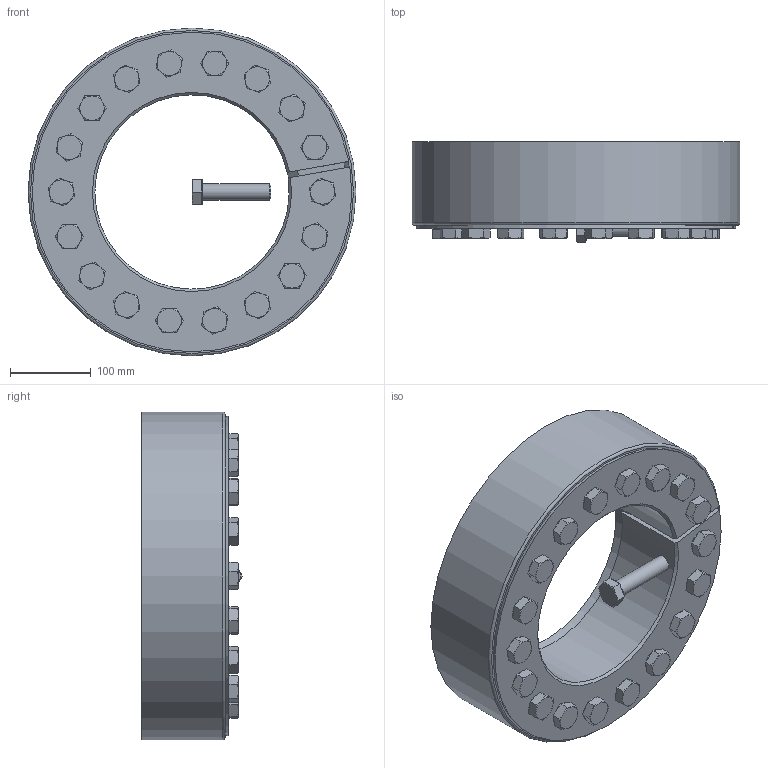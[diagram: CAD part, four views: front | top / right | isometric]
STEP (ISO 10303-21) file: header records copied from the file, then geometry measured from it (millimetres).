
FILE_DESCRIPTION( ( 'Unknown' ), '1' );
FILE_NAME( 'C:/Dokumente und Einstellungen/Sven/Desktop/homepage/cad - homepage/KBS19-1/KBS 19_1 - 240 x 405.stp', 'Unknown', ( 'Unknown' ), ( 'Unknown' ), 'XStep 1.0', 'Unknown', ' ' );
FILE_SCHEMA( ( 'automotive_design' ) );
Length unit declared in the file: millimetre
Products named in the file (3): Assem1; KBS 19_1 - 240 x 405; ISO 4017 - M20 x 85-N
Bounding box: 405 x 124.32 x 405 mm (x, y, z)
Volume: 17229458.9 mm3; surface area: 1152376.2 mm2
Topology: 21 solids, 21 shells, 541 faces, 1187 edges, 707 vertices
Faces by surface type: plane 303, cone 139, cylinder 78, torus 21
Full cylindrical faces by diameter (mm): 20 x55, 30 x19, 405 x2
Entity records: 2074 total; most frequent: CARTESIAN_POINT 365, DIRECTION 320, ORIENTED_EDGE 238, AXIS2_PLACEMENT_3D 141, EDGE_LOOP 121, EDGE_CURVE 119, VERTEX_POINT 90, FACE_OUTER_BOUND 81
